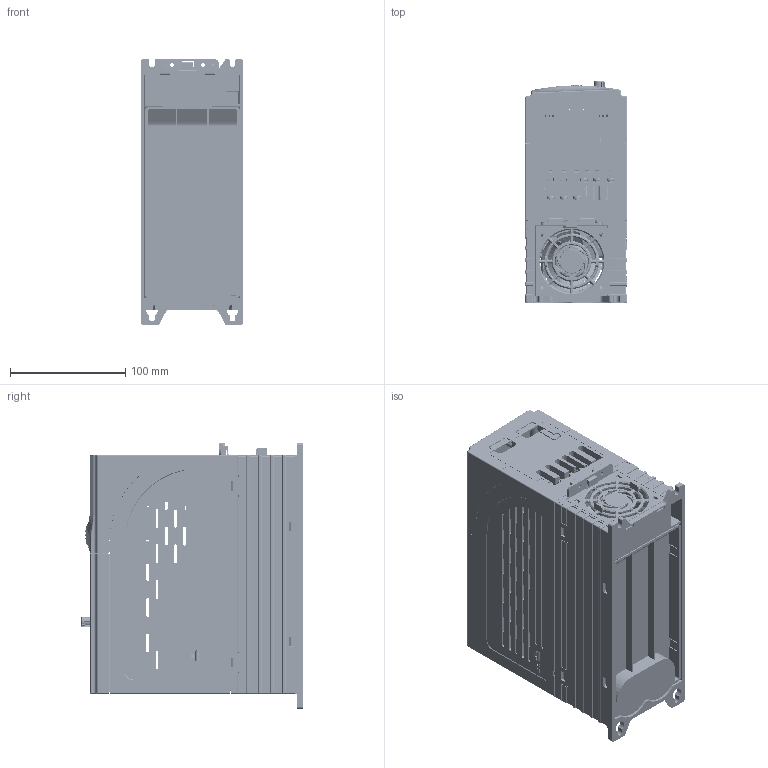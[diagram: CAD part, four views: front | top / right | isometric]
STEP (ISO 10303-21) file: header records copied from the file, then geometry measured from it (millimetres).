
FILE_DESCRIPTION((''),'2;1');
FILE_NAME('GD290-003G004P-4_ASM','2025-04-10T09:51:54',('Administrator'),(''),'CREO PARAMETRIC BY PTC INC, 2019080','CREO PARAMETRIC BY PTC INC, 2019080','');
FILE_SCHEMA(('CONFIG_CONTROL_DESIGN'));
Products named in the file (35): 70610784_9_1_1; 70610784_9_1_ASM; 70610784_1_1_ASM_1_ASM_1_ASM_1__ASM; 80780152_1_1_1_1_1_1_1_1; 80780152_1_ASM_1_ASM_1_ASM_1_AS_ASM; 80740315_1_1_1_1; 80810216_1_1_1_1; 80880691_1_1_1_1_1_1_1; 80790023_1_1_1_1_1_1_1; 80810217_1_1_1_1_1_1_1; 80810218_1_1_1_1_1_1_1; 80740127_1_1_1_1_1_1_1; 80483523-NOW_1_1_1_1_1_1_1; MAIN-TERMINAL-7R5-1-0825_2_10_1; H_TERMINAL_1_1_1_1_1_1_1_1; TD100-01-C_M4_NUT_1_1_1_1_1_1_1; TB1000-00_SCREW_10_1_1_1_1_1_1_; TB1000-00_SCREW_INST_ASM_1_ASM__ASM; S_TERMINAL_1_1_1_1_1_1_1_1; H_Z_TERMINAL_2_1_1_1_1_1_1_1; TD40-01-C_M3_NUT_1_1_1_1_1_1_1_; INSERT_2_1_1_1_1_1_1_1; GD270_TB_ASM_2_ASM_1_ASM_1_ASM__ASM; 17003-04574-3D_A1_ASM_1_ASM_1_A_ASM; 2-21-19-062-BP602524HL_1_1_1_1_; 17003-04540_1_1; E-DIN0209-5_08MM-10_16MM-TMB_1_; E-RLY5-300-300A_1_1_1_1_1_1_1; E-DIN0302-5_08MM-TA_1_1_1_1_1_1; E-MJ0204-R_1_1_1_1_1_1_1; 17003-04540_ASM_1_ASM_1_ASM_1_A_ASM; PA2147_KY1_ASM_1_ASM_1_1_1_1_1_; 00-GD270-004-4_ASM_2_ASM_1_ASM__ASM; GD290-003G004P-4_ASM_1_ASM; GD290-003G004P-4_ASM
Assembly tree (61 placements, depth 7):
  GD290-003G004P-4_ASM
    GD290-003G004P-4_ASM_1_ASM
      00-GD270-004-4_ASM_2_ASM_1_ASM__ASM
        70610784_1_1_ASM_1_ASM_1_ASM_1__ASM
          70610784_9_1_ASM
            70610784_9_1_1
        80780152_1_ASM_1_ASM_1_ASM_1_AS_ASM
          80780152_1_1_1_1_1_1_1_1
        80740315_1_1_1_1
        80810216_1_1_1_1
        80880691_1_1_1_1_1_1_1
        80790023_1_1_1_1_1_1_1
        80810217_1_1_1_1_1_1_1
        80810218_1_1_1_1_1_1_1
        80740127_1_1_1_1_1_1_1
        80483523-NOW_1_1_1_1_1_1_1
        17003-04574-3D_A1_ASM_1_ASM_1_A_ASM
          GD270_TB_ASM_2_ASM_1_ASM_1_ASM__ASM
            MAIN-TERMINAL-7R5-1-0825_2_10_1
            H_TERMINAL_1_1_1_1_1_1_1_1  x3
            TD100-01-C_M4_NUT_1_1_1_1_1_1_1  x9
            TB1000-00_SCREW_INST_ASM_1_ASM__ASM  x9
              TB1000-00_SCREW_10_1_1_1_1_1_1_
            S_TERMINAL_1_1_1_1_1_1_1_1  x3
            H_Z_TERMINAL_2_1_1_1_1_1_1_1  x3
            TD40-01-C_M3_NUT_1_1_1_1_1_1_1_  x3
            INSERT_2_1_1_1_1_1_1_1  x3
        2-21-19-062-BP602524HL_1_1_1_1_
        17003-04540_ASM_1_ASM_1_ASM_1_A_ASM
          17003-04540_1_1
          E-DIN0209-5_08MM-10_16MM-TMB_1_
          E-RLY5-300-300A_1_1_1_1_1_1_1  x2
          E-DIN0302-5_08MM-TA_1_1_1_1_1_1
          E-MJ0204-R_1_1_1_1_1_1_1
        PA2147_KY1_ASM_1_ASM_1_1_1_1_1_
Bounding box: 89.4 x 192.3 x 231 mm (x, y, z)
Volume: 738764.8 mm3; surface area: 621818.8 mm2
Topology: 51 solids, 52 shells, 14112 faces, 40235 edges, 26299 vertices
Faces by surface type: plane 7117, cylinder 4658, cone 723, torus 693, bspline 641, extrusion 173, sphere 91, revolution 16
Entity records: 460336 total; most frequent: CARTESIAN_POINT 124965, ORIENTED_EDGE 71968, DIRECTION 67321, EDGE_CURVE 35984, VERTEX_POINT 23570, AXIS2_PLACEMENT_3D 22687, VECTOR 21931, LINE 21766
